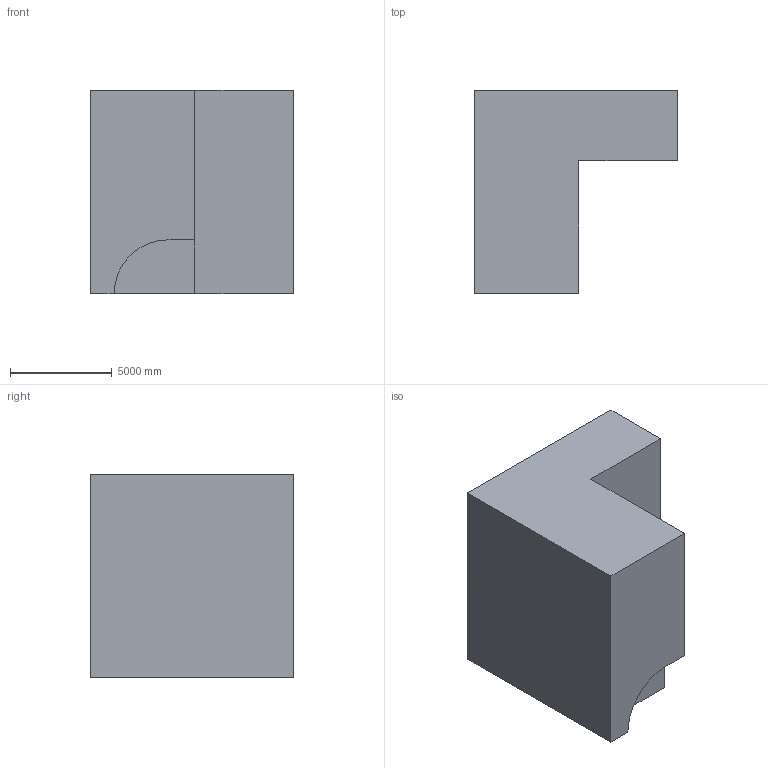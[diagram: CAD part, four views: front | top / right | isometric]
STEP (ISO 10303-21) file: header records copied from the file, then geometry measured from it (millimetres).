
FILE_DESCRIPTION (( 'STEP AP203' ), '1' );
FILE_NAME ('1091.STEP', '2022-08-18T12:43:20', ( 'user' ), ( '' ), 'SwSTEP 2.0', 'SolidWorks 2021', '' );
FILE_SCHEMA (( 'CONFIG_CONTROL_DESIGN' ));
Length unit declared in the file: centimetre
Products named in the file (1): 1091
Bounding box: 10000 x 10000 x 10000 mm (x, y, z)
Volume: 669184049380.1 mm3; surface area: 534772312.8 mm2
Topology: 1 solids, 1 shells, 11 faces, 27 edges, 18 vertices
Faces by surface type: plane 10, cylinder 1
Entity records: 400 total; most frequent: CARTESIAN_POINT 57, ORIENTED_EDGE 54, DIRECTION 53, EDGE_CURVE 27, VECTOR 25, LINE 25, VERTEX_POINT 18, AXIS2_PLACEMENT_3D 14
